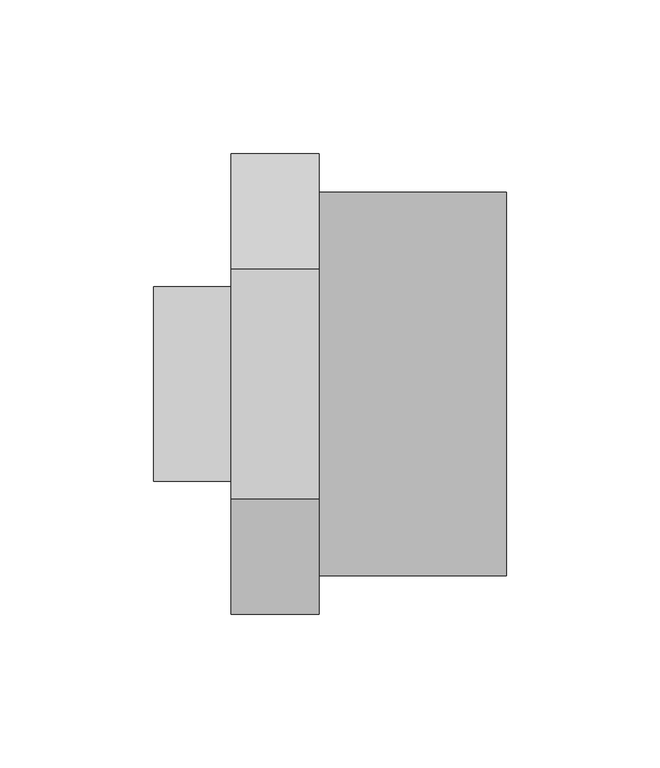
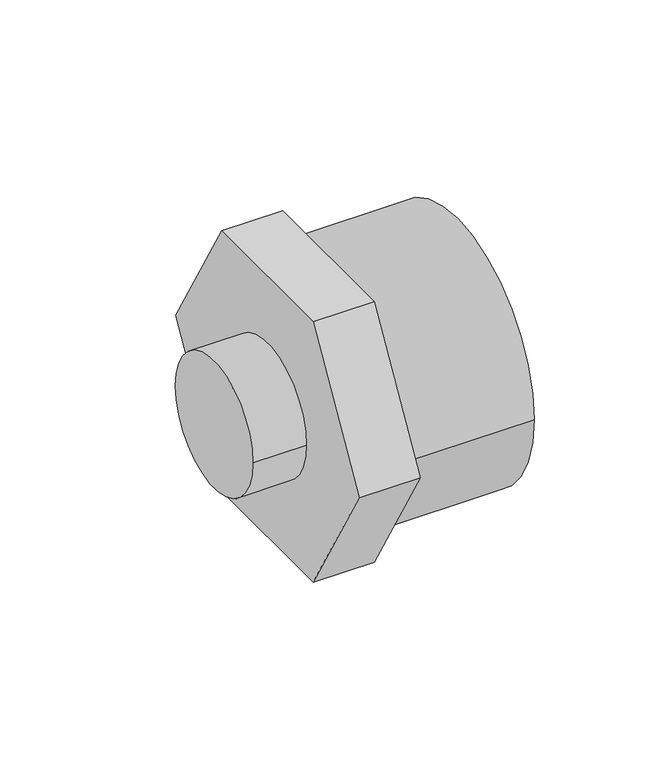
"""IFC4 building model written with IfcOpenShell, lengths in millimetres: pipe fitting geometry, 01101081 : Uniões múltiplas F/M/M."""

import ifcopenshell
import ifcopenshell.guid

model = None  # the IFC model being written
_history = None  # IfcOwnerHistory: only IFC2X3 demands one
_inside = {}  # id of a spatial element -> (the spatial element, [elements in it])
_under = {}  # id of a project, library or spatial element -> (it, [spatial elements below it])
_declared = {}  # id of a project -> (the project, [libraries it declares])
_typed = {}  # id of a type object -> (the type object, [elements of that type])
_made_of = {}  # id of a material, layer set ... -> (it, [elements and type objects made of it])


def new_model(schema):
    """Start an empty IFC model of exactly this schema.

    Asked for "IFC4X3", IfcOpenShell would pick the latest addendum, in which some entities
    have other attributes; the version numbers below select the first issue.
    IFC2X3 requires an IfcOwnerHistory on every rooted entity: one is made here for all.
    """
    global model, _history
    if schema == "IFC4X3":
        model = ifcopenshell.file(schema_version=(4, 3, 0, 0))
    else:
        model = ifcopenshell.file(schema=schema)
    _inside.clear()
    _under.clear()
    _declared.clear()
    _typed.clear()
    _made_of.clear()
    _history = None
    if model.schema == "IFC2X3":
        org = make("IfcOrganization", Name="unknown")
        user = make(
            "IfcPersonAndOrganization",
            ThePerson=make("IfcPerson", FamilyName="unknown"),
            TheOrganization=org,
        )
        app = make(
            "IfcApplication",
            ApplicationDeveloper=org,
            Version="unknown",
            ApplicationFullName="unknown",
            ApplicationIdentifier="unknown",
        )
        _history = make(
            "IfcOwnerHistory",
            OwningUser=user,
            OwningApplication=app,
            ChangeAction="ADDED",
            CreationDate=0,
        )
    return model


def make(cls, **values):
    """One entity of the class cls with the attributes given. An attribute that is None is left unset."""
    return model.create_entity(
        cls, **{name: value for name, value in values.items() if value is not None}
    )


def rooted(cls, **values):
    """An entity with a GlobalId (a new one), such as an element, a storey or a relation."""
    return make(cls, GlobalId=ifcopenshell.guid.new(), OwnerHistory=_history, **values)


def si_unit(unit_type, name, prefix=None):
    """IfcSIUnit, for example si_unit("LENGTHUNIT", "METRE", prefix="MILLI")."""
    return make("IfcSIUnit", UnitType=unit_type, Prefix=prefix, Name=name)


def assignment(units):
    """IfcUnitAssignment: the units of a project."""
    return None if units is None else make("IfcUnitAssignment", Units=units)


def point(xyz):
    """IfcCartesianPoint."""
    return None if xyz is None else make("IfcCartesianPoint", Coordinates=xyz)


def direction(xyz):
    """IfcDirection."""
    return None if xyz is None else make("IfcDirection", DirectionRatios=xyz)


def frame(location, z_axis=None, x_axis=None):
    """IfcAxis2Placement3D, a coordinate frame: its origin and axes. An axis left out is left unset."""
    return make(
        "IfcAxis2Placement3D",
        Location=point(location),
        Axis=direction(z_axis),
        RefDirection=direction(x_axis),
    )


def frame_2d(location, x_axis=None):
    """IfcAxis2Placement2D, a coordinate frame in the plane: its origin and x axis."""
    return make(
        "IfcAxis2Placement2D", Location=point(location), RefDirection=direction(x_axis)
    )


def origin():
    """The frame at (0, 0, 0) with its axes left unset."""
    return frame((0.0, 0.0, 0.0))


def origin_2d():
    """The frame at (0, 0) in the plane with its x axis left unset."""
    return frame_2d((0.0, 0.0))


def place(relative_to, where):
    """IfcLocalPlacement: puts the frame where relative to a parent placement (None: the world)."""
    return make(
        "IfcLocalPlacement", PlacementRelTo=relative_to, RelativePlacement=where
    )


def context(
    kind, dimensions, precision=None, world=None, true_north=None, identifier=None
):
    """IfcGeometricRepresentationContext, for example the 3D "Model" context."""
    return make(
        "IfcGeometricRepresentationContext",
        ContextIdentifier=identifier,
        ContextType=kind,
        CoordinateSpaceDimension=dimensions,
        Precision=precision,
        WorldCoordinateSystem=world,
        TrueNorth=true_north,
    )


def project(units=None, contexts=None):
    """IfcProject with its units and contexts."""
    return rooted(
        "IfcProject",
        Name="project",
        RepresentationContexts=contexts,
        UnitsInContext=assignment(units),
    )


def spatial(cls, under=None, at=None, **own):
    """A site, building, storey or space (cls), placed at a placement, below another one or the project."""
    s = rooted(cls, ObjectPlacement=at, **own)
    if under is not None:
        _under.setdefault(under.id(), (under, []))[1].append(s)
    return s


def polyline(points):
    """IfcPolyline through the points."""
    return make("IfcPolyline", Points=[point(p) for p in points])


def circle_curve(where, radius):
    """IfcCircle in the frame where."""
    return make("IfcCircle", Position=where, Radius=radius)


def trimmed(basis, trim1, trim2, sense, master):
    """IfcTrimmedCurve: the piece of a basis curve between two trims."""
    return make(
        "IfcTrimmedCurve",
        BasisCurve=basis,
        Trim1=trim1,
        Trim2=trim2,
        SenseAgreement=sense,
        MasterRepresentation=master,
    )


def segment(curve, same_sense, transition):
    """IfcCompositeCurveSegment."""
    return make(
        "IfcCompositeCurveSegment",
        Transition=transition,
        SameSense=same_sense,
        ParentCurve=curve,
    )


def composite_curve(segments, self_intersect=None):
    """IfcCompositeCurve: segments joined end to end."""
    return make("IfcCompositeCurve", Segments=segments, SelfIntersect=self_intersect)


def outline(outer, holes=None, kind="AREA"):
    """IfcArbitraryClosedProfileDef: a profile drawn as a closed curve; with holes, ...WithVoids."""
    if holes is None:
        return make("IfcArbitraryClosedProfileDef", ProfileType=kind, OuterCurve=outer)
    return make(
        "IfcArbitraryProfileDefWithVoids",
        ProfileType=kind,
        OuterCurve=outer,
        InnerCurves=holes,
    )


def extrude(swept, where, along, depth):
    """IfcExtrudedAreaSolid: the profile swept, set in the frame where, extruded along a direction by depth."""
    return make(
        "IfcExtrudedAreaSolid",
        SweptArea=swept,
        Position=where,
        ExtrudedDirection=direction(along),
        Depth=depth,
    )


def shape(context_of_items, identifier, shape_type, items):
    """IfcShapeRepresentation: the items that make up one representation, for example the "Body"."""
    return make(
        "IfcShapeRepresentation",
        ContextOfItems=context_of_items,
        RepresentationIdentifier=identifier,
        RepresentationType=shape_type,
        Items=items,
    )


def source(mapping_origin, context_of_items, identifier, shape_type, items):
    """IfcRepresentationMap: a shape defined once, which mapped items show again and again."""
    return make(
        "IfcRepresentationMap",
        MappingOrigin=mapping_origin,
        MappedRepresentation=shape(context_of_items, identifier, shape_type, items),
    )


def transform(
    local_origin,
    x_axis=None,
    y_axis=None,
    z_axis=None,
    scale=None,
    scale2=None,
    scale3=None,
    uniform=True,
):
    """IfcCartesianTransformationOperator3D, or its non-uniform kind. x_axis, y_axis, z_axis: its Axis1, 2, 3."""
    if uniform:
        return make(
            "IfcCartesianTransformationOperator3D",
            Axis1=direction(x_axis),
            Axis2=direction(y_axis),
            LocalOrigin=point(local_origin),
            Scale=scale,
            Axis3=direction(z_axis),
        )
    return make(
        "IfcCartesianTransformationOperator3DnonUniform",
        Axis1=direction(x_axis),
        Axis2=direction(y_axis),
        LocalOrigin=point(local_origin),
        Scale=scale,
        Axis3=direction(z_axis),
        Scale2=scale2,
        Scale3=scale3,
    )


def mapped(mapping_source, mapping_target):
    """IfcMappedItem: shows the shape of a source again, moved by a transform."""
    return make(
        "IfcMappedItem", MappingSource=mapping_source, MappingTarget=mapping_target
    )


def made_of(thing, what):
    """Note that an element or type object is made of a material, layer set ...; save() writes the relation."""
    if what is not None:
        _made_of.setdefault(what.id(), (what, []))[1].append(thing)
    return thing


def element(
    cls,
    number,
    at=None,
    inside=None,
    cuts=None,
    type_object=None,
    material=None,
    context=None,
    identifier="Body",
    shape_type=None,
    held_by="IfcProductDefinitionShape",
    body=None,
    shapes=None,
    **own,
):
    """One element of the class cls, such as IfcWall. Its Tag is "e" and its number.

    at: its placement. inside: the storey or other place that contains it. cuts: it is an
    opening in that element (IfcRelVoidsElement). A single representation is given by context,
    identifier, shape_type and body (its items); several are given by shapes. held_by: the class
    of the entity that holds the representations. save() writes the other relations.
    """
    e = rooted(cls, Tag="e%d" % number, ObjectPlacement=at, **own)
    if body is not None:
        shapes = [shape(context, identifier, shape_type, body)]
    if shapes is not None:
        e.Representation = make(held_by, Representations=shapes)
    if inside is not None:
        _inside.setdefault(inside.id(), (inside, []))[1].append(e)
    if cuts is not None:
        rooted(
            "IfcRelVoidsElement", RelatingBuildingElement=cuts, RelatedOpeningElement=e
        )
    if type_object is not None:
        _typed.setdefault(type_object.id(), (type_object, []))[1].append(e)
    return made_of(e, material)


def aggregate(whole, parts):
    """IfcRelAggregates: a whole, such as a stair, and the parts it consists of."""
    return rooted("IfcRelAggregates", RelatingObject=whole, RelatedObjects=parts)


def save(model, path):
    """Write the relations noted so far, then the file.

    IfcRelAggregates (storeys below a building ...), IfcRelContainedInSpatialStructure (elements
    in a storey), IfcRelDefinesByType, IfcRelAssociatesMaterial and IfcRelDeclares: one each for
    every whole, place, type object, material and project.
    """
    for whole, parts in _under.values():
        aggregate(whole, parts)
    for where, things in _inside.values():
        rooted(
            "IfcRelContainedInSpatialStructure",
            RelatedElements=things,
            RelatingStructure=where,
        )
    for kind, things in _typed.values():
        rooted("IfcRelDefinesByType", RelatedObjects=things, RelatingType=kind)
    for what, things in _made_of.values():
        rooted("IfcRelAssociatesMaterial", RelatedObjects=things, RelatingMaterial=what)
    for by, libraries in _declared.values():
        rooted("IfcRelDeclares", RelatingContext=by, RelatedDefinitions=libraries)
    model.write(path)


def pipe_fitting_351f75a2(model_context):
    return source(origin(), model_context, "Body", "SweptSolid", [
        extrude(outline(composite_curve([segment(trimmed(circle_curve(origin_2d(), 31.75), [point((31.75, 0.0))], [point((-31.75, 0.0))], False, "CARTESIAN"), True, "CONTINUOUS"), segment(trimmed(circle_curve(origin_2d(), 31.75), [point((-31.75, 0.0))], [point((31.75, 0.0))], False, "CARTESIAN"), True, "CONTINUOUS")], self_intersect=False)), frame((0.0, 0.0, 0.0), z_axis=(1.0, 0.0, 0.0), x_axis=(0.0, 1.0, 0.0)), (0.0, 0.0, 1.0), 25.25),
        extrude(outline(polyline([(-37.5277675, 65.0), (37.5277675, 65.0), (75.055535, 0.0), (37.5277675, -65.0), (-37.5277675, -65.0), (-75.055535, 0.0), (-37.5277675, 65.0)])), frame((25.25, 0.0, 0.0), z_axis=(1.0, 0.0, 0.0), x_axis=(0.0, 1.0, 0.0)), (0.0, 0.0, 1.0), 28.75),
        extrude(outline(composite_curve([segment(trimmed(circle_curve(origin_2d(), 62.5), [point((-62.5, 0.0))], [point((62.5, 0.0))], False, "CARTESIAN"), True, "CONTINUOUS"), segment(trimmed(circle_curve(origin_2d(), 62.5), [point((62.5, 0.0))], [point((-62.5, 0.0))], False, "CARTESIAN"), True, "CONTINUOUS")], self_intersect=False)), frame((54.0, 0.0, 0.0), z_axis=(1.0, 0.0, 0.0), x_axis=(0.0, 1.0, 0.0)), (0.0, 0.0, 1.0), 61.0),
    ])


if __name__ == "__main__":
    model = new_model("IFC4")
    model_context = context("Model", 3, world=origin())
    ifc_project = project(units=[si_unit("LENGTHUNIT", "METRE", prefix="MILLI")], contexts=[model_context])
    site = spatial("IfcSite", under=ifc_project)
    building = spatial("IfcBuilding", under=site)
    placement = place(None, origin())
    pipe_fitting_shape = pipe_fitting_351f75a2(model_context)
    element("IfcPipeFitting", 1, ObjectType="01101081 : Uniões múltiplas F/M/M", at=placement, inside=building, context=model_context, shape_type="MappedRepresentation", body=[
        mapped(pipe_fitting_shape, transform((0.0, 0.0, 0.0), x_axis=(1.0, 0.0, 0.0), y_axis=(0.0, 1.0, 0.0), z_axis=(0.0, 0.0, 1.0))),
    ])
    save(model, "model.ifc")
